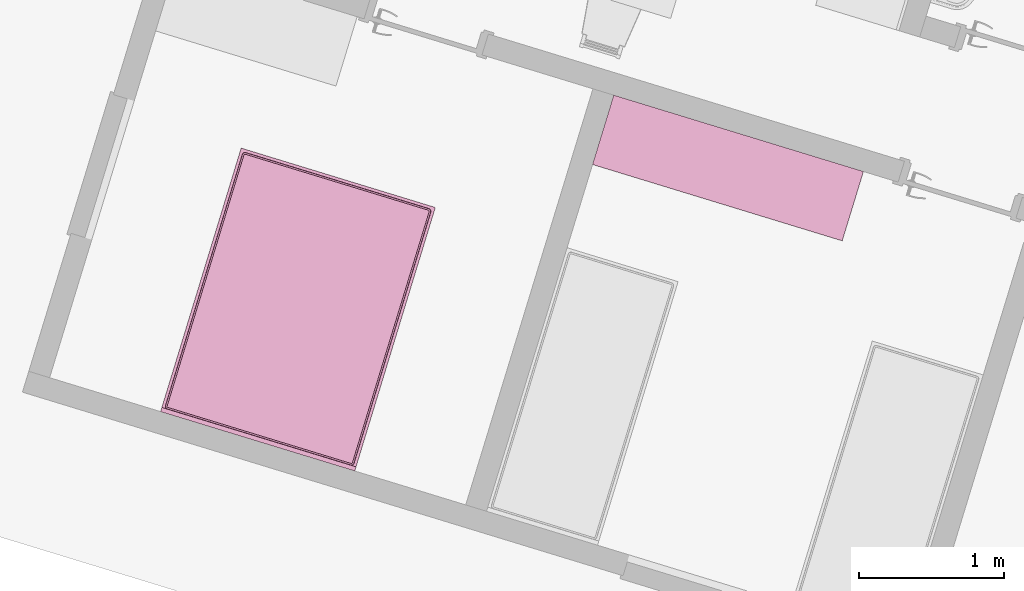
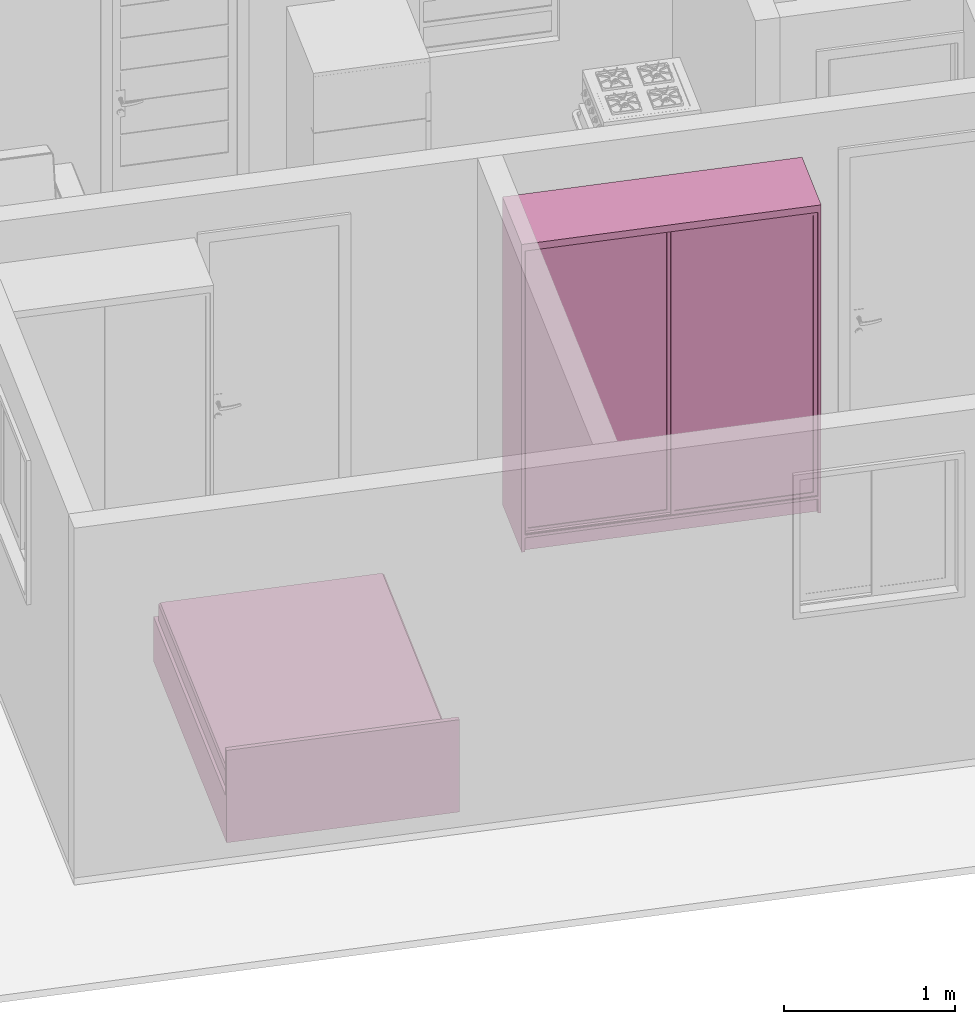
# One storey, part 10 of 13: 2 furnishings.
"""IFC2X3 building model written with IfcOpenShell, lengths in millimetres."""

from ifc_helpers import new_model, entity, si_unit, converted_unit, derived_unit, money_unit, direction, frame, origin_with_axes, place, context, subcontext, project, spatial, faceted_brep, type_object, element, save


model = new_model("IFC2X3")

# Units and contexts
model_context = context("Model", 3, precision=0.01, world=origin_with_axes(), true_north=direction((0.0, 1.0)))
body_context = subcontext(model_context, "Body", "Model", "MODEL_VIEW")
ifc_project = project(units=[si_unit("LENGTHUNIT", "METRE", prefix="MILLI"), si_unit("AREAUNIT", "SQUARE_METRE"), si_unit("VOLUMEUNIT", "CUBIC_METRE"), converted_unit("PLANEANGLEUNIT", "DEGREE", entity("IfcPlaneAngleMeasure", 0.0174532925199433), si_unit("PLANEANGLEUNIT", "RADIAN"), dimensions=[0, 0, 0, 0, 0, 0, 0]), money_unit("USD"), converted_unit("TIMEUNIT", "Year", entity("IfcTimeMeasure", 31557600.0), si_unit("TIMEUNIT", "SECOND"), dimensions=[0, 0, 1, 0, 0, 0, 0]), si_unit("MASSUNIT", "GRAM", prefix="KILO"), si_unit("THERMODYNAMICTEMPERATUREUNIT", "DEGREE_CELSIUS"), si_unit("LUMINOUSINTENSITYUNIT", "LUMEN"), si_unit("ENERGYUNIT", "JOULE", prefix="MEGA"), derived_unit("THERMALCONDUCTANCEUNIT", [(si_unit("POWERUNIT", "WATT"), 1), (si_unit("LENGTHUNIT", "METRE"), -1), (si_unit("THERMODYNAMICTEMPERATUREUNIT", "KELVIN"), -1)]), derived_unit("SPECIFICHEATCAPACITYUNIT", [(si_unit("ENERGYUNIT", "JOULE"), 1), (si_unit("MASSUNIT", "GRAM", prefix="KILO"), -1), (si_unit("THERMODYNAMICTEMPERATUREUNIT", "KELVIN"), -1)]), derived_unit("MASSDENSITYUNIT", [(si_unit("MASSUNIT", "GRAM", prefix="KILO"), 1), (si_unit("VOLUMEUNIT", "CUBIC_METRE"), -1)])], contexts=[model_context])

# Site, building, storey, space
site_placement = place(None, frame((0.0, 0.0, 0.0), z_axis=(0.0, 0.0, 1.0), x_axis=(0.9563047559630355, -0.2923717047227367, 0.0)))
site = spatial("IfcSite", under=ifc_project, at=site_placement, Name="Site", CompositionType="ELEMENT")
building_placement = place(site_placement, origin_with_axes())
building = spatial("IfcBuilding", under=site, at=building_placement, Name="Casa Térrea Isolada", CompositionType="ELEMENT")
storey_placement = place(building_placement, origin_with_axes())
storey = spatial("IfcBuildingStorey", under=building, at=storey_placement, Name="Terreo", CompositionType="ELEMENT", Elevation=0.0)
space_1_placement = place(storey_placement, frame((150.0015215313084, 149.9985476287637, 0.0), z_axis=(0.0, 0.0, 1.0), x_axis=(1.0, 0.0, 0.0)))
space_1 = spatial("IfcSpace", under=storey, at=space_1_placement, Name="02", CompositionType="ELEMENT", InteriorOrExteriorSpace="INTERNAL")

# Furnishing
furniture_type_1 = type_object("IfcFurnitureType", Name="Bed Double 01 27", AssemblyPlace="NOTDEFINED")
furnishing_1_placement = place(space_1_placement, frame((2200.001366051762, 1900.0, 0.0), z_axis=(0.0, 0.0, 1.0), x_axis=(-1.0, 0.0, 0.0)))
element("IfcFurnishingElement", 1, at=furnishing_1_placement, inside=space_1, type_object=furniture_type_1, Name="MB08", context=body_context, shape_type="Brep", body=[
    faceted_brep([(1400.0, 1870.0, 0.0), (0.0, 1870.0, 0.0), (0.0, 1900.0, 0.0), (1400.0, 1900.0, 0.0), (1400.0, 1870.0, 660.0), (0.0, 1870.0, 660.0), (0.0, 1900.0, 660.0), (1400.0, 1900.0, 660.0)], [[[0, 1, 2, 3]], [[1, 0, 4, 5]], [[2, 1, 5, 6]], [[3, 2, 6, 7]], [[0, 3, 7, 4]], [[5, 4, 7, 6]]]),
    faceted_brep([(1400.0, 0.0, 0.0), (0.0, 0.0, 0.0), (0.0, 1870.0, 0.0), (1400.0, 1870.0, 0.0), (1400.0, 0.0, 320.0), (0.0, 0.0, 320.0), (0.0, 1870.0, 320.0), (1400.0, 1870.0, 320.0)], [[[0, 1, 2, 3]], [[1, 0, 4, 5]], [[2, 1, 5, 6]], [[3, 2, 6, 7]], [[0, 3, 7, 4]], [[5, 4, 7, 6]]]),
    faceted_brep([(20.0, 40.0, 350.0), (20.0, 1850.0, 350.0), (21.52240934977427, 1857.653668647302, 350.0), (25.85786437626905, 1864.142135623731, 350.0), (32.34633135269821, 1868.477590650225, 350.0), (40.0, 1870.0, 350.0), (1360.0, 1870.0, 350.0), (1367.653668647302, 1868.477590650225, 350.0), (1374.142135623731, 1864.142135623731, 350.0), (1378.477590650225, 1857.653668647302, 350.0), (1380.0, 1850.0, 350.0), (1380.0, 40.0, 350.0), (1378.477590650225, 32.34633135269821, 350.0), (1374.142135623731, 25.85786437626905, 350.0), (1367.653668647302, 21.52240934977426, 350.0), (1360.0, 20.0, 350.0), (40.00000000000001, 20.0, 350.0), (32.34633135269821, 21.52240934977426, 350.0), (25.85786437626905, 25.85786437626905, 350.0), (21.52240934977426, 32.34633135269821, 350.0), (19.99999961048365, 40.00000009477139, 420.0), (19.99999961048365, 1849.999999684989, 420.0), (21.52240934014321, 1857.653668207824, 420.0), (25.85786400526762, 1864.142135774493, 420.0), (32.34633157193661, 1868.477590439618, 420.0), (40.00000009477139, 1870.000000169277, 420.0), (1360.000000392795, 1870.000000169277, 420.0), (1367.653668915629, 1868.477590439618, 420.0), (1374.142135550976, 1864.142135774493, 420.0), (1378.4775902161, 1857.653668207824, 420.0), (1379.99999994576, 1849.999999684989, 420.0), (1379.99999994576, 40.00000009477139, 420.0), (1378.4775902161, 32.34633157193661, 420.0), (1374.142135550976, 25.85786400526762, 420.0), (1367.653668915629, 21.52240934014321, 420.0), (1360.000000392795, 19.99999961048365, 420.0), (40.00000009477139, 19.99999961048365, 420.0), (32.34633157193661, 21.52240934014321, 420.0), (25.85786400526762, 25.85786400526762, 420.0), (21.52240934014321, 32.34633157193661, 420.0), (21.52240893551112, 40.14994436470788, 427.6536686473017), (21.52240893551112, 1849.850055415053, 427.6536686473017), (22.95648755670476, 1857.059653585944, 427.6536686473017), (26.95545997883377, 1863.044539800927, 427.6536686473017), (32.94034619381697, 1867.043512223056, 427.6536686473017), (40.14994436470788, 1868.47759084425, 427.6536686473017), (1359.850056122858, 1868.47759084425, 427.6536686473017), (1367.059654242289, 1867.043512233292, 427.6536686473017), (1373.04453954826, 1863.044539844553, 427.6536686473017), (1377.043511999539, 1857.059653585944, 427.6536686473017), (1378.477590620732, 1849.850055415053, 427.6536686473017), (1378.477590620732, 40.14994436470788, 427.6536686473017), (1377.043511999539, 32.94034619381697, 427.6536686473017), (1373.04453954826, 26.95545993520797, 427.6536686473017), (1367.059654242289, 22.9564875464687, 427.6536686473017), (1359.850056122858, 21.52240893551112, 427.6536686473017), (40.14994436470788, 21.52240893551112, 427.6536686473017), (32.94034619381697, 22.95648755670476, 427.6536686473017), (26.95545997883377, 26.95545997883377, 427.6536686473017), (22.95648755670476, 32.94034619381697, 427.6536686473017), (32.34633116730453, 41.21600793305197, 438.4775906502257), (32.34633116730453, 1848.783991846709, 438.4775906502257), (33.1523992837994, 1852.83636884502, 438.4775906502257), (34.75907314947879, 1855.240926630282, 438.4775906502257), (37.16363093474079, 1856.847600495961, 438.4775906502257), (41.21600793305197, 1857.653668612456, 438.4775906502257), (1358.783992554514, 1857.653668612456, 438.4775906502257), (1362.836369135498, 1856.847600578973, 438.4775906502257), (1365.240926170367, 1855.240926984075, 438.4775906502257), (1366.847600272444, 1852.83636884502, 438.4775906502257), (1367.653668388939, 1848.783991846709, 438.4775906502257), (1367.653668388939, 41.21600793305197, 438.4775906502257), (1366.847600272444, 37.16363093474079, 438.4775906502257), (1365.240926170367, 34.7590727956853, 438.4775906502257), (1362.836369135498, 33.15239920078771, 438.4775906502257), (1358.783992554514, 32.34633116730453, 438.4775906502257), (41.21600793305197, 32.34633116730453, 438.4775906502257), (37.16363093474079, 33.1523992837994, 438.4775906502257), (34.75907314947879, 34.75907314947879, 438.4775906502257), (33.1523992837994, 37.16363093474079, 438.4775906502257), (40.00000172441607, 41.96982888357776, 440.0000003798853), (40.00000172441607, 1848.030170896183, 440.0000003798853), (40.3268171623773, 1849.673182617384, 440.0000003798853), (39.99999983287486, 1849.999999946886, 439.9235590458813), (41.96982888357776, 1849.999998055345, 440.0000003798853), (1358.030171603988, 1849.999998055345, 440.0000003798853), (1359.673182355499, 1849.673182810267, 440.0000003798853), (1359.9999993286, 1849.999999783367, 439.9235591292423), (1359.999997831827, 1848.030170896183, 440.0000003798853), (1359.999997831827, 41.96982888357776, 440.0000003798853), (1359.673182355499, 40.32681696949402, 440.0000003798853), (1359.9999993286, 39.99999999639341, 439.9235591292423), (1358.030171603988, 40.00000172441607, 440.0000003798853), (41.96982888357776, 40.00000172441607, 440.0000003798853), (40.3268171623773, 40.3268171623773, 440.0000003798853), (39.99999983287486, 39.99999983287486, 439.9235590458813)], [[[0, 1, 2, 3, 4, 5, 6, 7, 8, 9, 10, 11, 12, 13, 14, 15, 16, 17, 18, 19]], [[1, 0, 20, 21]], [[2, 1, 21, 22]], [[3, 2, 22, 23]], [[4, 3, 23, 24]], [[5, 4, 24, 25]], [[6, 5, 25, 26]], [[7, 6, 26, 27]], [[8, 7, 27, 28]], [[9, 8, 28, 29]], [[10, 9, 29, 30]], [[11, 10, 30, 31]], [[12, 11, 31, 32]], [[13, 12, 32, 33]], [[14, 13, 33, 34]], [[15, 14, 34, 35]], [[16, 15, 35, 36]], [[17, 16, 36, 37]], [[18, 17, 37, 38]], [[19, 18, 38, 39]], [[0, 19, 39, 20]], [[21, 20, 40, 41]], [[22, 21, 41, 42]], [[23, 22, 42, 43]], [[24, 23, 43, 44]], [[25, 24, 44, 45]], [[26, 25, 45, 46]], [[27, 26, 46, 47]], [[28, 27, 47, 48]], [[29, 28, 48, 49]], [[30, 29, 49, 50]], [[31, 30, 50, 51]], [[32, 31, 51, 52]], [[33, 32, 52, 53]], [[34, 33, 53, 54]], [[35, 34, 54, 55]], [[36, 35, 55, 56]], [[37, 36, 56, 57]], [[38, 37, 57, 58]], [[39, 38, 58, 59]], [[20, 39, 59, 40]], [[41, 40, 60, 61]], [[42, 41, 61, 62]], [[43, 42, 62, 63]], [[44, 43, 63, 64]], [[45, 44, 64, 65]], [[46, 45, 65, 66]], [[47, 46, 66, 67]], [[48, 47, 67, 68]], [[49, 48, 68, 69]], [[50, 49, 69, 70]], [[51, 50, 70, 71]], [[52, 51, 71, 72]], [[53, 52, 72, 73]], [[54, 53, 73, 74]], [[55, 54, 74, 75]], [[56, 55, 75, 76]], [[57, 56, 76, 77]], [[58, 57, 77, 78]], [[59, 58, 78, 79]], [[40, 59, 79, 60]], [[61, 60, 80, 81]], [[62, 61, 81, 82, 83]], [[63, 62, 83]], [[64, 63, 83]], [[65, 64, 83, 82, 84]], [[66, 65, 84, 85]], [[67, 66, 85, 86, 87]], [[68, 67, 87]], [[69, 68, 87]], [[70, 69, 87, 86, 88]], [[71, 70, 88, 89]], [[72, 71, 89, 90, 91]], [[73, 72, 91]], [[74, 73, 91]], [[75, 74, 91, 90, 92]], [[76, 75, 92, 93]], [[77, 76, 93, 94, 95]], [[78, 77, 95]], [[79, 78, 95]], [[60, 79, 95, 94, 80]], [[81, 80, 94, 93, 92, 90, 89, 88, 86, 85, 84, 82]]]),
    faceted_brep([(20.0, 40.0, 350.0), (21.52240934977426, 32.34633135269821, 350.0), (25.85786437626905, 25.85786437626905, 350.0), (32.34633135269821, 21.52240934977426, 350.0), (40.00000000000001, 20.0, 350.0), (1360.0, 20.0, 350.0), (1367.653668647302, 21.52240934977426, 350.0), (1374.142135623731, 25.85786437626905, 350.0), (1378.477590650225, 32.34633135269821, 350.0), (1380.0, 40.0, 350.0), (1380.0, 1850.0, 350.0), (1378.477590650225, 1857.653668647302, 350.0), (1374.142135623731, 1864.142135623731, 350.0), (1367.653668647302, 1868.477590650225, 350.0), (1360.0, 1870.0, 350.0), (40.0, 1870.0, 350.0), (32.34633135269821, 1868.477590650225, 350.0), (25.85786437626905, 1864.142135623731, 350.0), (21.52240934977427, 1857.653668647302, 350.0), (20.0, 1850.0, 350.0), (19.99999983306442, 40.00000004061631, 320.0), (21.52240934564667, 32.34633144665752, 320.0), (25.85786421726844, 25.85786421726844, 320.0), (32.34633144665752, 21.52240934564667, 320.0), (40.00000004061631, 19.99999983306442, 320.0), (1360.000000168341, 19.99999983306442, 320.0), (1367.653668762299, 21.52240934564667, 320.0), (1374.14213559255, 25.85786421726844, 320.0), (1378.477590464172, 32.34633144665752, 320.0), (1379.999999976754, 40.00000004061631, 320.0), (1379.999999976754, 1849.999999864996, 319.9999999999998), (1378.477590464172, 1857.653668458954, 319.9999999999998), (1374.14213559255, 1864.142135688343, 319.9999999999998), (1367.653668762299, 1868.477590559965, 319.9999999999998), (1360.000000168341, 1870.000000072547, 319.9999999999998), (40.00000004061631, 1870.000000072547, 319.9999999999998), (32.34633144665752, 1868.477590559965, 319.9999999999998), (25.85786421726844, 1864.142135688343, 319.9999999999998), (21.52240934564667, 1857.653668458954, 319.9999999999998), (19.99999983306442, 1849.999999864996, 319.9999999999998)], [[[0, 1, 2, 3, 4, 5, 6, 7, 8, 9, 10, 11, 12, 13, 14, 15, 16, 17, 18, 19]], [[0, 20, 21, 1]], [[1, 21, 22, 2]], [[2, 22, 23, 3]], [[3, 23, 24, 4]], [[4, 24, 25, 5]], [[5, 25, 26, 6]], [[6, 26, 27, 7]], [[7, 27, 28, 8]], [[8, 28, 29, 9]], [[9, 29, 30, 10]], [[10, 30, 31, 11]], [[11, 31, 32, 12]], [[12, 32, 33, 13]], [[13, 33, 34, 14]], [[14, 34, 35, 15]], [[15, 35, 36, 16]], [[16, 36, 37, 17]], [[17, 37, 38, 18]], [[18, 38, 39, 19]], [[19, 39, 20, 0]], [[20, 39, 38, 37, 36, 35, 34, 33, 32, 31, 30, 29, 28, 27, 26, 25, 24, 23, 22, 21]]]),
])

# Space
space_2_placement = place(storey_placement, frame((3300.001504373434, 149.9985476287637, 0.0), z_axis=(0.0, 0.0, 1.0), x_axis=(1.0, 0.0, 0.0)))
space_2 = spatial("IfcSpace", under=storey, at=space_2_placement, Name="03", CompositionType="ELEMENT", InteriorOrExteriorSpace="INTERNAL")

# Furnishing
furniture_type_2 = type_object("IfcFurnitureType", Name="Wardrobe Modular 27", AssemblyPlace="NOTDEFINED")
furnishing_2_placement = place(space_2_placement, frame((0.0, 2499.999224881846, 0.0), z_axis=(0.0, 0.0, 1.0), x_axis=(1.0, 0.0, 0.0)))
element("IfcFurnishingElement", 2, at=furnishing_2_placement, inside=space_2, type_object=furniture_type_2, Name="MB12", context=body_context, shape_type="Brep", body=[
    faceted_brep([(1800.0, 500.0006224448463, 99.99999999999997), (1800.0, 500.0006224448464, 2170.0), (1800.0, 0.0, 2170.0), (1800.0, 0.0, 100.0), (0.0, 500.0006224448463, 99.99999999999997), (0.0, 500.0006224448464, 2170.0), (1780.0, 500.0006224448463, 120.0), (1780.0, 500.0006224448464, 2150.0), (20.0, 500.0006224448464, 2150.0), (20.0, 500.0006224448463, 120.0), (0.0, 0.0, 2170.0), (0.0, 0.0, 100.0), (1780.0, 0.0, 120.0), (20.0, 0.0, 120.0), (20.0, 0.0, 2150.0), (1780.0, 0.0, 2150.0)], [[[0, 1, 2, 3]], [[0, 4, 5, 1], [6, 7, 8, 9]], [[1, 5, 10, 2]], [[3, 2, 10, 11], [12, 13, 14, 15]], [[4, 0, 3, 11]], [[5, 4, 11, 10]], [[7, 6, 12, 15]], [[8, 7, 15, 14]], [[9, 8, 14, 13]], [[6, 9, 13, 12]]]),
    faceted_brep([(20.0, 500.0006224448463, 679.9999999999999), (20.0, 70.0, 679.9999999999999), (20.0, 70.0, 700.0), (20.0, 500.0006224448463, 700.0), (1780.0, 500.0006224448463, 679.9999999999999), (1780.0, 70.0, 679.9999999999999), (1780.0, 70.0, 700.0), (1780.0, 500.0006224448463, 700.0)], [[[0, 1, 2, 3]], [[0, 4, 5, 1]], [[1, 5, 6, 2]], [[3, 2, 6, 7]], [[4, 0, 3, 7]], [[5, 4, 7, 6]]]),
    faceted_brep([(1800.0, 500.0006224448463, 2170.0), (1800.0, 500.0006224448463, 2200.0), (1800.0, 0.0, 2200.0), (1800.0, 0.0, 2170.0), (0.0, 500.0006224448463, 2170.0), (0.0, 500.0006224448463, 2200.0), (0.0, 0.0, 2200.0), (0.0, 0.0, 2170.0)], [[[0, 1, 2, 3]], [[4, 5, 1, 0]], [[1, 5, 6, 2]], [[3, 2, 6, 7]], [[0, 3, 7, 4]], [[7, 6, 5, 4]]]),
    faceted_brep([(20.00000000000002, 500.0006224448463, 0.0), (20.00000000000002, 480.0006224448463, 0.0), (20.00000000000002, 480.0006224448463, 100.0), (20.00000000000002, 500.0006224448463, 100.0), (1780.0, 500.0006224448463, 0.0), (1780.0, 480.0006224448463, 0.0), (1780.0, 480.0006224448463, 100.0), (1780.0, 500.0006224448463, 100.0)], [[[0, 1, 2, 3]], [[0, 4, 5, 1]], [[1, 5, 6, 2]], [[3, 2, 6, 7]], [[4, 0, 3, 7]], [[5, 4, 7, 6]]]),
    faceted_brep([(0.0, 500.0006224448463, 0.0), (0.0, 0.0, 0.0), (0.0, 0.0, 100.0), (0.0, 500.0006224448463, 100.0), (20.00000000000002, 500.0006224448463, 0.0), (20.00000000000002, 0.0, 0.0), (20.00000000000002, 0.0, 100.0), (20.00000000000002, 500.0006224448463, 100.0)], [[[0, 1, 2, 3]], [[0, 4, 5, 1]], [[1, 5, 6, 2]], [[3, 2, 6, 7]], [[4, 0, 3, 7]], [[5, 4, 7, 6]]]),
    faceted_brep([(1780.0, 500.0006224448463, 0.0), (1780.0, 0.0, 0.0), (1780.0, 0.0, 100.0), (1780.0, 500.0006224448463, 100.0), (1800.0, 500.0006224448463, 0.0), (1800.0, 0.0, 0.0), (1800.0, 0.0, 100.0), (1800.0, 500.0006224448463, 100.0)], [[[0, 1, 2, 3]], [[0, 4, 5, 1]], [[1, 5, 6, 2]], [[3, 2, 6, 7]], [[4, 0, 3, 7]], [[5, 4, 7, 6]]]),
    faceted_brep([(20.00000000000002, 40.00000000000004, 0.0), (20.00000000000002, 20.00000000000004, 0.0), (20.00000000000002, 20.00000000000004, 100.0), (20.00000000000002, 40.00000000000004, 100.0), (1780.0, 40.00000000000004, 0.0), (1780.0, 20.00000000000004, 0.0), (1780.0, 20.00000000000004, 100.0), (1780.0, 40.00000000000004, 100.0)], [[[0, 1, 2, 3]], [[0, 4, 5, 1]], [[1, 5, 6, 2]], [[3, 2, 6, 7]], [[4, 0, 3, 7]], [[5, 4, 7, 6]]]),
    faceted_brep([(20.0, 269.0003112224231, 2012.5), (20.0, 277.0003112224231, 1998.643593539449), (45.0, 277.0003112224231, 1998.643593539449), (45.0, 269.0003112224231, 2012.5), (20.0, 269.0003112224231, 2037.5), (20.0, 277.0003112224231, 2051.356406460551), (20.0, 293.0003112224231, 2051.356406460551), (20.0, 301.0003112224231, 2037.5), (20.0, 301.0003112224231, 2012.5), (20.0, 293.0003112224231, 1998.643593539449), (45.0, 293.0003112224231, 1998.643593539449), (45.0, 301.0003112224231, 2012.5), (45.0, 301.0003112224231, 2037.5), (45.0, 293.0003112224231, 2051.356406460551), (45.0, 277.0003112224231, 2051.356406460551), (45.0, 269.0003112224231, 2037.5)], [[[0, 1, 2, 3]], [[0, 4, 5, 6, 7, 8, 9, 1]], [[1, 9, 10, 2]], [[3, 2, 10, 11, 12, 13, 14, 15]], [[4, 0, 3, 15]], [[5, 4, 15, 14]], [[6, 5, 14, 13]], [[7, 6, 13, 12]], [[8, 7, 12, 11]], [[9, 8, 11, 10]]]),
    faceted_brep([(45.0, 272.5003112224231, 2012.5), (45.0, 278.7503112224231, 2001.674682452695), (1755.0, 278.7503112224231, 2001.674682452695), (1755.0, 272.500311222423, 2012.5), (45.0, 272.5003112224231, 2037.5), (45.0, 278.7503112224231, 2048.325317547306), (45.0, 291.2503112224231, 2048.325317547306), (45.0, 297.5003112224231, 2037.5), (45.0, 297.5003112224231, 2012.5), (45.0, 291.2503112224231, 2001.674682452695), (1755.0, 291.2503112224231, 2001.674682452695), (1755.0, 297.500311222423, 2012.5), (1755.0, 297.500311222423, 2037.5), (1755.0, 291.2503112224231, 2048.325317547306), (1755.0, 278.7503112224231, 2048.325317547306), (1755.0, 272.500311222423, 2037.5)], [[[0, 1, 2, 3]], [[0, 4, 5, 6, 7, 8, 9, 1]], [[1, 9, 10, 2]], [[3, 2, 10, 11, 12, 13, 14, 15]], [[4, 0, 3, 15]], [[5, 4, 15, 14]], [[6, 5, 14, 13]], [[7, 6, 13, 12]], [[8, 7, 12, 11]], [[9, 8, 11, 10]]]),
    faceted_brep([(1755.0, 269.000311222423, 2012.5), (1755.0, 277.000311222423, 1998.643593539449), (1780.0, 277.000311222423, 1998.643593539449), (1780.0, 269.000311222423, 2012.5), (1755.0, 269.000311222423, 2037.5), (1755.0, 277.000311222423, 2051.356406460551), (1755.0, 293.000311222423, 2051.356406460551), (1755.0, 301.000311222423, 2037.5), (1755.0, 301.000311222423, 2012.5), (1755.0, 293.000311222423, 1998.643593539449), (1780.0, 293.000311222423, 1998.643593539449), (1780.0, 301.000311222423, 2012.5), (1780.0, 301.000311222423, 2037.5), (1780.0, 293.000311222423, 2051.356406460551), (1780.0, 277.000311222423, 2051.356406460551), (1780.0, 269.000311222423, 2037.5)], [[[0, 1, 2, 3]], [[0, 4, 5, 6, 7, 8, 9, 1]], [[1, 9, 10, 2]], [[3, 2, 10, 11, 12, 13, 14, 15]], [[4, 0, 3, 15]], [[5, 4, 15, 14]], [[6, 5, 14, 13]], [[7, 6, 13, 12]], [[8, 7, 12, 11]], [[9, 8, 11, 10]]]),
    faceted_brep([(20.49999999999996, 70.0, 120.5), (1779.5, 70.0, 120.5), (1779.5, 50.0, 120.5), (20.49999999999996, 50.0, 120.5), (20.49999999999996, 70.00000000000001, 309.5), (80.50000000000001, 70.00000000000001, 309.5), (80.50000000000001, 70.00000000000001, 279.4999999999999), (1719.5, 70.00000000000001, 279.4999999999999), (1719.5, 70.00000000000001, 309.5), (1779.5, 70.00000000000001, 309.5), (1779.5, 50.00000000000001, 309.5), (1719.5, 50.00000000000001, 309.5), (1719.5, 50.00000000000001, 279.4999999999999), (80.50000000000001, 50.00000000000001, 279.4999999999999), (80.50000000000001, 50.00000000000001, 309.5), (20.49999999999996, 50.00000000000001, 309.5)], [[[0, 1, 2, 3]], [[0, 4, 5, 6, 7, 8, 9, 1]], [[1, 9, 10, 2]], [[3, 2, 10, 11, 12, 13, 14, 15]], [[4, 0, 3, 15]], [[5, 4, 15, 14]], [[6, 5, 14, 13]], [[7, 6, 13, 12]], [[8, 7, 12, 11]], [[9, 8, 11, 10]]]),
    faceted_brep([(50.0, 70.0, 130.0), (1750.0, 70.0, 130.0), (1750.0, 70.0, 150.0), (50.0, 70.0, 150.0), (50.0, 470.0006224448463, 130.0), (1750.0, 470.0006224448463, 130.0), (1750.0, 470.0006224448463, 150.0), (50.0, 470.0006224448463, 150.0)], [[[0, 1, 2, 3]], [[0, 4, 5, 1]], [[1, 5, 6, 2]], [[3, 2, 6, 7]], [[4, 0, 3, 7]], [[5, 4, 7, 6]]]),
    faceted_brep([(30.0, 70.0, 130.0), (50.0, 70.0, 130.0), (50.0, 70.0, 290.0), (30.0, 70.0, 290.0), (30.0, 490.0006224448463, 130.0), (50.0, 490.0006224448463, 130.0), (50.0, 490.0006224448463, 290.0), (30.0, 490.0006224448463, 290.0)], [[[0, 1, 2, 3]], [[0, 4, 5, 1]], [[1, 5, 6, 2]], [[3, 2, 6, 7]], [[4, 0, 3, 7]], [[5, 4, 7, 6]]]),
    faceted_brep([(1770.0, 490.0006224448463, 130.0), (1750.0, 490.0006224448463, 130.0), (1750.0, 490.0006224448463, 290.0), (1770.0, 490.0006224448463, 290.0), (1770.0, 70.0, 130.0), (1750.0, 70.0, 130.0), (1750.0, 70.0, 290.0), (1770.0, 70.0, 290.0)], [[[0, 1, 2, 3]], [[0, 4, 5, 1]], [[1, 5, 6, 2]], [[3, 2, 6, 7]], [[4, 0, 3, 7]], [[5, 4, 7, 6]]]),
    faceted_brep([(50.0, 470.0006224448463, 130.0), (1750.0, 470.0006224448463, 130.0), (1750.0, 470.0006224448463, 290.0), (50.0, 470.0006224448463, 290.0), (50.0, 490.0006224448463, 130.0), (1750.0, 490.0006224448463, 130.0), (1750.0, 490.0006224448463, 290.0), (50.0, 490.0006224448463, 290.0)], [[[0, 1, 2, 3]], [[0, 4, 5, 1]], [[1, 5, 6, 2]], [[3, 2, 6, 7]], [[4, 0, 3, 7]], [[5, 4, 7, 6]]]),
    faceted_brep([(20.49999999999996, 70.0, 310.5), (1779.5, 70.0, 310.5), (1779.5, 50.0, 310.5), (20.49999999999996, 50.0, 310.5), (20.49999999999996, 70.00000000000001, 499.4999999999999), (80.50000000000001, 70.00000000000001, 499.4999999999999), (80.50000000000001, 70.00000000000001, 469.5), (1719.5, 70.00000000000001, 469.5), (1719.5, 70.00000000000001, 499.4999999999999), (1779.5, 70.00000000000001, 499.4999999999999), (1779.5, 50.00000000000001, 499.4999999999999), (1719.5, 50.00000000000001, 499.4999999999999), (1719.5, 50.00000000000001, 469.5), (80.50000000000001, 50.00000000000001, 469.5), (80.50000000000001, 50.00000000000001, 499.4999999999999), (20.49999999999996, 50.00000000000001, 499.4999999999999)], [[[0, 1, 2, 3]], [[0, 4, 5, 6, 7, 8, 9, 1]], [[1, 9, 10, 2]], [[3, 2, 10, 11, 12, 13, 14, 15]], [[4, 0, 3, 15]], [[5, 4, 15, 14]], [[6, 5, 14, 13]], [[7, 6, 13, 12]], [[8, 7, 12, 11]], [[9, 8, 11, 10]]]),
    faceted_brep([(50.0, 70.0, 320.0), (1750.0, 70.0, 320.0), (1750.0, 70.0, 340.0), (50.0, 70.0, 340.0), (50.0, 470.0006224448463, 320.0), (1750.0, 470.0006224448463, 320.0), (1750.0, 470.0006224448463, 340.0), (50.0, 470.0006224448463, 340.0)], [[[0, 1, 2, 3]], [[0, 4, 5, 1]], [[1, 5, 6, 2]], [[3, 2, 6, 7]], [[4, 0, 3, 7]], [[5, 4, 7, 6]]]),
    faceted_brep([(30.0, 70.0, 320.0), (50.0, 70.0, 320.0), (50.0, 70.0, 480.0), (30.0, 70.0, 480.0), (30.0, 490.0006224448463, 320.0), (50.0, 490.0006224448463, 320.0), (50.0, 490.0006224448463, 480.0), (30.0, 490.0006224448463, 480.0)], [[[0, 1, 2, 3]], [[0, 4, 5, 1]], [[1, 5, 6, 2]], [[3, 2, 6, 7]], [[4, 0, 3, 7]], [[5, 4, 7, 6]]]),
    faceted_brep([(1770.0, 490.0006224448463, 320.0), (1750.0, 490.0006224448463, 320.0), (1750.0, 490.0006224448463, 480.0), (1770.0, 490.0006224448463, 480.0), (1770.0, 70.0, 320.0), (1750.0, 70.0, 320.0), (1750.0, 70.0, 480.0), (1770.0, 70.0, 480.0)], [[[0, 1, 2, 3]], [[0, 4, 5, 1]], [[1, 5, 6, 2]], [[3, 2, 6, 7]], [[4, 0, 3, 7]], [[5, 4, 7, 6]]]),
    faceted_brep([(50.0, 470.0006224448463, 320.0), (1750.0, 470.0006224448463, 320.0), (1750.0, 470.0006224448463, 480.0), (50.0, 470.0006224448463, 480.0), (50.0, 490.0006224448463, 320.0), (1750.0, 490.0006224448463, 320.0), (1750.0, 490.0006224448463, 480.0), (50.0, 490.0006224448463, 480.0)], [[[0, 1, 2, 3]], [[0, 4, 5, 1]], [[1, 5, 6, 2]], [[3, 2, 6, 7]], [[4, 0, 3, 7]], [[5, 4, 7, 6]]]),
    faceted_brep([(20.49999999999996, 70.0, 500.4999999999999), (1779.5, 70.0, 500.4999999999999), (1779.5, 50.0, 500.4999999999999), (20.49999999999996, 50.0, 500.4999999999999), (20.49999999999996, 70.00000000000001, 689.4999999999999), (80.50000000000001, 70.00000000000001, 689.4999999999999), (80.50000000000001, 70.00000000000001, 659.5), (1719.5, 70.00000000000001, 659.5), (1719.5, 70.00000000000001, 689.4999999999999), (1779.5, 70.00000000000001, 689.4999999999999), (1779.5, 50.00000000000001, 689.4999999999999), (1719.5, 50.00000000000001, 689.4999999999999), (1719.5, 50.00000000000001, 659.5), (80.50000000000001, 50.00000000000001, 659.5), (80.50000000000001, 50.00000000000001, 689.4999999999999), (20.49999999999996, 50.00000000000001, 689.4999999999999)], [[[0, 1, 2, 3]], [[0, 4, 5, 6, 7, 8, 9, 1]], [[1, 9, 10, 2]], [[3, 2, 10, 11, 12, 13, 14, 15]], [[4, 0, 3, 15]], [[5, 4, 15, 14]], [[6, 5, 14, 13]], [[7, 6, 13, 12]], [[8, 7, 12, 11]], [[9, 8, 11, 10]]]),
    faceted_brep([(50.0, 70.0, 509.9999999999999), (1750.0, 70.0, 509.9999999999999), (1750.0, 70.0, 529.9999999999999), (50.0, 70.0, 529.9999999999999), (50.0, 470.0006224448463, 509.9999999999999), (1750.0, 470.0006224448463, 509.9999999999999), (1750.0, 470.0006224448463, 529.9999999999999), (50.0, 470.0006224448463, 529.9999999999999)], [[[0, 1, 2, 3]], [[0, 4, 5, 1]], [[1, 5, 6, 2]], [[3, 2, 6, 7]], [[4, 0, 3, 7]], [[5, 4, 7, 6]]]),
    faceted_brep([(30.0, 70.0, 510.0), (50.0, 70.0, 510.0), (50.0, 70.0, 669.9999999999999), (30.0, 70.0, 669.9999999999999), (30.0, 490.0006224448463, 510.0), (50.0, 490.0006224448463, 510.0), (50.0, 490.0006224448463, 669.9999999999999), (30.0, 490.0006224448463, 669.9999999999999)], [[[0, 1, 2, 3]], [[0, 4, 5, 1]], [[1, 5, 6, 2]], [[3, 2, 6, 7]], [[4, 0, 3, 7]], [[5, 4, 7, 6]]]),
    faceted_brep([(1770.0, 490.0006224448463, 510.0), (1750.0, 490.0006224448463, 510.0), (1750.0, 490.0006224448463, 669.9999999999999), (1770.0, 490.0006224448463, 669.9999999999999), (1770.0, 70.0, 510.0), (1750.0, 70.0, 510.0), (1750.0, 70.0, 669.9999999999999), (1770.0, 70.0, 669.9999999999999)], [[[0, 1, 2, 3]], [[0, 4, 5, 1]], [[1, 5, 6, 2]], [[3, 2, 6, 7]], [[4, 0, 3, 7]], [[5, 4, 7, 6]]]),
    faceted_brep([(50.0, 470.0006224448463, 510.0), (1750.0, 470.0006224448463, 510.0), (1750.0, 470.0006224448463, 669.9999999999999), (50.0, 470.0006224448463, 669.9999999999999), (50.0, 490.0006224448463, 510.0), (1750.0, 490.0006224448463, 510.0), (1750.0, 490.0006224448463, 669.9999999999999), (50.0, 490.0006224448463, 669.9999999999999)], [[[0, 1, 2, 3]], [[0, 4, 5, 1]], [[1, 5, 6, 2]], [[3, 2, 6, 7]], [[4, 0, 3, 7]], [[5, 4, 7, 6]]]),
    faceted_brep([(20.0, 50.00000000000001, 120.0), (1780.0, 50.00000000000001, 120.0), (1780.0, 10.00000000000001, 120.0), (20.0, 10.00000000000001, 120.0), (20.0, 50.00000000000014, 2150.0), (1780.0, 50.00000000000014, 2150.0), (25.0, 50.00000000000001, 125.0), (1775.0, 50.00000000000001, 125.0), (1775.0, 50.00000000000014, 2145.0), (25.0, 50.00000000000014, 2145.0), (1780.0, 10.00000000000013, 2150.0), (20.0, 10.00000000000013, 2150.0), (25.0, 10.00000000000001, 125.0), (25.0, 10.00000000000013, 2145.0), (1775.0, 10.00000000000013, 2145.0), (1775.0, 10.00000000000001, 125.0)], [[[0, 1, 2, 3]], [[0, 4, 5, 1], [6, 7, 8, 9]], [[1, 5, 10, 2]], [[3, 2, 10, 11], [12, 13, 14, 15]], [[4, 0, 3, 11]], [[5, 4, 11, 10]], [[7, 6, 12, 15]], [[8, 7, 15, 14]], [[9, 8, 14, 13]], [[6, 9, 13, 12]]]),
    faceted_brep([(899.9999999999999, 50.0, 125.0), (899.9999999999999, 50.00000000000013, 2145.0), (899.9999999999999, 30.00000000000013, 2145.0), (899.9999999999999, 30.0, 125.0), (879.9999999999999, 50.0, 145.0), (879.9999999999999, 50.00000000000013, 2125.0), (879.9999999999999, 30.00000000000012, 2125.0), (879.9999999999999, 30.0, 145.0)], [[[0, 1, 2, 3]], [[0, 4, 5, 1]], [[1, 5, 6, 2]], [[3, 2, 6, 7]], [[4, 0, 3, 7]], [[5, 4, 7, 6]]]),
    faceted_brep([(45.00000000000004, 50.0, 145.0), (45.00000000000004, 50.00000000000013, 2125.0), (45.00000000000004, 30.00000000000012, 2125.0), (45.00000000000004, 30.0, 145.0), (25.00000000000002, 50.0, 125.0), (25.00000000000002, 50.00000000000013, 2145.0), (25.00000000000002, 30.00000000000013, 2145.0), (25.00000000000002, 30.0, 125.0)], [[[0, 1, 2, 3]], [[0, 4, 5, 1]], [[1, 5, 6, 2]], [[3, 2, 6, 7]], [[4, 0, 3, 7]], [[5, 4, 7, 6]]]),
    faceted_brep([(25.00000000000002, 50.0, 125.0), (899.9999999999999, 50.0, 125.0), (899.9999999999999, 30.0, 125.0), (25.00000000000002, 30.0, 125.0), (45.00000000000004, 50.0, 145.0), (879.9999999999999, 50.0, 145.0), (879.9999999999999, 30.0, 145.0), (45.00000000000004, 30.0, 145.0)], [[[0, 1, 2, 3]], [[0, 4, 5, 1]], [[1, 5, 6, 2]], [[3, 2, 6, 7]], [[4, 0, 3, 7]], [[5, 4, 7, 6]]]),
    faceted_brep([(45.00000000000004, 50.00000000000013, 2125.0), (879.9999999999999, 50.00000000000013, 2125.0), (879.9999999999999, 30.00000000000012, 2125.0), (45.00000000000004, 30.00000000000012, 2125.0), (25.00000000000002, 50.00000000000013, 2145.0), (899.9999999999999, 50.00000000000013, 2145.0), (899.9999999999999, 30.00000000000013, 2145.0), (25.00000000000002, 30.00000000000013, 2145.0)], [[[0, 1, 2, 3]], [[0, 4, 5, 1]], [[1, 5, 6, 2]], [[3, 2, 6, 7]], [[4, 0, 3, 7]], [[5, 4, 7, 6]]]),
    faceted_brep([(879.9999999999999, 45.00000000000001, 145.0), (879.9999999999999, 45.00000000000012, 2125.0), (879.9999999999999, 35.00000000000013, 2125.0), (879.9999999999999, 35.0, 145.0), (45.00000000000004, 45.00000000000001, 145.0), (45.00000000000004, 45.00000000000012, 2125.0), (45.00000000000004, 35.00000000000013, 2125.0), (45.00000000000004, 35.0, 145.0)], [[[0, 1, 2, 3]], [[0, 4, 5, 1]], [[1, 5, 6, 2]], [[3, 2, 6, 7]], [[4, 0, 3, 7]], [[5, 4, 7, 6]]]),
    faceted_brep([(1775.0, 30.0, 125.0), (1775.0, 30.00000000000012, 2145.0), (1775.0, 10.00000000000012, 2145.0), (1775.0, 9.999999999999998, 125.0), (1755.0, 30.0, 145.0), (1755.0, 30.00000000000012, 2125.0), (1755.0, 10.00000000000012, 2125.0), (1755.0, 9.999999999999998, 145.0)], [[[0, 1, 2, 3]], [[0, 4, 5, 1]], [[1, 5, 6, 2]], [[3, 2, 6, 7]], [[4, 0, 3, 7]], [[5, 4, 7, 6]]]),
    faceted_brep([(919.9999999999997, 30.0, 145.0), (919.9999999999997, 30.00000000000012, 2125.0), (919.9999999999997, 10.00000000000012, 2125.0), (919.9999999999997, 9.999999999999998, 145.0), (899.9999999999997, 30.0, 125.0), (899.9999999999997, 30.00000000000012, 2145.0), (899.9999999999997, 10.00000000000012, 2145.0), (899.9999999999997, 9.999999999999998, 125.0)], [[[0, 1, 2, 3]], [[0, 4, 5, 1]], [[1, 5, 6, 2]], [[3, 2, 6, 7]], [[4, 0, 3, 7]], [[5, 4, 7, 6]]]),
    faceted_brep([(899.9999999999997, 30.0, 125.0), (1775.0, 30.0, 125.0), (1775.0, 9.999999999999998, 125.0), (899.9999999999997, 9.999999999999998, 125.0), (919.9999999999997, 30.0, 145.0), (1755.0, 30.0, 145.0), (1755.0, 9.999999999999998, 145.0), (919.9999999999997, 9.999999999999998, 145.0)], [[[0, 1, 2, 3]], [[0, 4, 5, 1]], [[1, 5, 6, 2]], [[3, 2, 6, 7]], [[4, 0, 3, 7]], [[5, 4, 7, 6]]]),
    faceted_brep([(919.9999999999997, 30.00000000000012, 2125.0), (1755.0, 30.00000000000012, 2125.0), (1755.0, 10.00000000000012, 2125.0), (919.9999999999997, 10.00000000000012, 2125.0), (899.9999999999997, 30.00000000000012, 2145.0), (1775.0, 30.00000000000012, 2145.0), (1775.0, 10.00000000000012, 2145.0), (899.9999999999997, 10.00000000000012, 2145.0)], [[[0, 1, 2, 3]], [[0, 4, 5, 1]], [[1, 5, 6, 2]], [[3, 2, 6, 7]], [[4, 0, 3, 7]], [[5, 4, 7, 6]]]),
    faceted_brep([(1755.0, 25.0, 145.0), (1755.0, 25.00000000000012, 2125.0), (1755.0, 20.00000000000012, 2125.0), (1755.0, 20.0, 145.0), (919.9999999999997, 25.0, 145.0), (919.9999999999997, 25.00000000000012, 2125.0), (919.9999999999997, 20.00000000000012, 2125.0), (919.9999999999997, 20.0, 145.0)], [[[0, 1, 2, 3]], [[0, 4, 5, 1]], [[1, 5, 6, 2]], [[3, 2, 6, 7]], [[4, 0, 3, 7]], [[5, 4, 7, 6]]]),
    faceted_brep([(1755.0, 20.0, 145.0), (1755.0, 20.00000000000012, 2125.0), (1755.0, 15.00000000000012, 2125.0), (1755.0, 15.0, 145.0), (919.9999999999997, 20.0, 145.0), (919.9999999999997, 20.00000000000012, 2125.0), (919.9999999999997, 15.00000000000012, 2125.0), (919.9999999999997, 15.0, 145.0)], [[[0, 1, 2, 3]], [[0, 4, 5, 1]], [[1, 5, 6, 2]], [[3, 2, 6, 7]], [[4, 0, 3, 7]], [[5, 4, 7, 6]]]),
])

save(model, "model.ifc")
